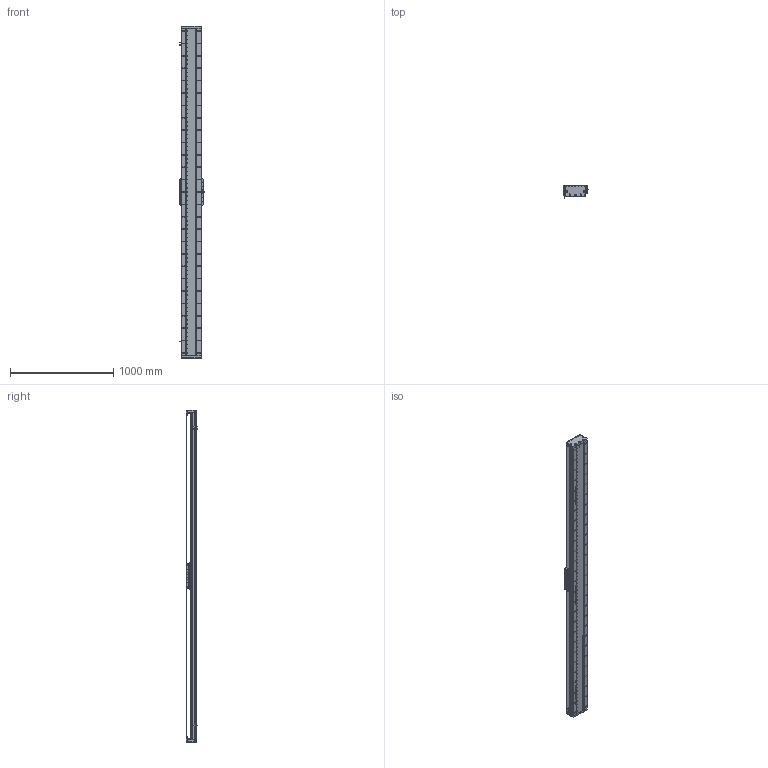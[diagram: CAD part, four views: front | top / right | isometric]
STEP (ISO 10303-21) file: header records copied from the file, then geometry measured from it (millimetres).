
FILE_DESCRIPTION (( 'STEP AP203' ), '1' );
FILE_NAME ('DA-C195-C3-T2880-C010-0.2 眻盄萇儂.STEP', '2025-08-15T01:29:23', ( '' ), ( '' ), 'SwSTEP 2.0', 'SolidWorks 2019', '' );
FILE_SCHEMA (( 'CONFIG_CONTROL_DESIGN' ));
Length unit declared in the file: millimetre
Products named in the file (15): DA195詩湍嶺輸; DA195詩湍菜輸; CU195-C3賑輸-俋楷; MS200 棠掑喜S315-T240; IU-CU195-L-00 菁釱(L3180); PM-T45ㄗ侂狟ㄘ; DA-C195-GD-DB-H-00 傷啣; DA195詩湍郪璃; IU-CU195-L 菁釱絳寢; LMT黍杅芛; 葩璃 DA95-GT-T-00; DA195詩湍裔啣; DA-C195-C3-T2880-C010-0.2 眻盄萇儂; DA95-HXJ-00 遣喳砎蝶; DA165-GYP-00 光电感应片(默认)
Assembly tree (29 placements, depth 3):
  DA-C195-C3-T2880-C010-0.2 眻盄萇儂
    DA195詩湍郪璃
      DA195詩湍菜輸  x2
      DA195詩湍裔啣
      DA195詩湍嶺輸  x2
      DA95-HXJ-00 遣喳砎蝶  x8
      DA-C195-GD-DB-H-00 傷啣  x2
    IU-CU195-L 菁釱絳寢
      IU-CU195-L-00 菁釱(L3180)
      葩璃 DA95-GT-T-00  x4
    LMT黍杅芛
    MS200 棠掑喜S315-T240
    PM-T45ㄗ侂狟ㄘ  x3
    DA165-GYP-00 光电感应片(默认)
    CU195-C3賑輸-俋楷
Bounding box: 248 x 115.45 x 3220 mm (x, y, z)
Volume: 18446912.4 mm3; surface area: 5462240.8 mm2
Topology: 86 solids, 118 shells, 4586 faces, 13167 edges, 8337 vertices
Faces by surface type: cylinder 2610, plane 1374, cone 514, torus 52, sphere 36
Entity records: 152711 total; most frequent: CARTESIAN_POINT 43024, ORIENTED_EDGE 23250, DIRECTION 21886, EDGE_CURVE 11625, AXIS2_PLACEMENT_3D 8233, VERTEX_POINT 7539, LINE 5420, VECTOR 5420
